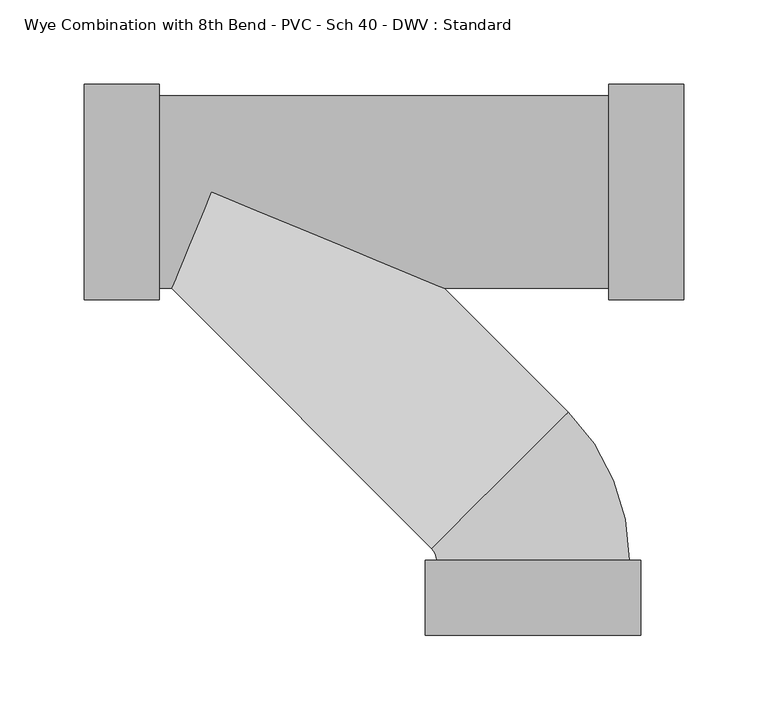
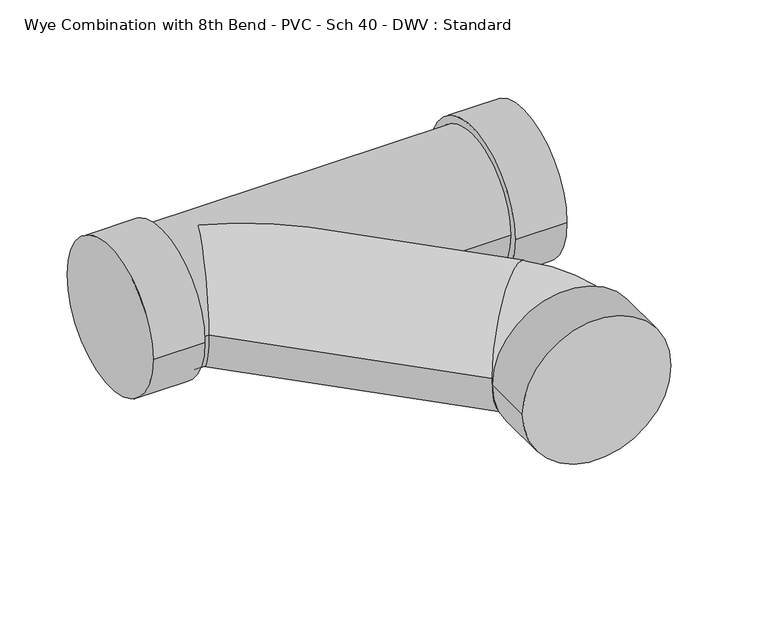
"""IFC4 building model written with IfcOpenShell, lengths in millimetres: pipe fitting geometry, Wye Combination with 8th Bend - PVC - Sch 40 - DWV : Standard."""

import ifcopenshell
import ifcopenshell.guid

model = None  # the IFC model being written
_history = None  # IfcOwnerHistory: only IFC2X3 demands one
_inside = {}  # id of a spatial element -> (the spatial element, [elements in it])
_under = {}  # id of a project, library or spatial element -> (it, [spatial elements below it])
_declared = {}  # id of a project -> (the project, [libraries it declares])
_typed = {}  # id of a type object -> (the type object, [elements of that type])
_made_of = {}  # id of a material, layer set ... -> (it, [elements and type objects made of it])


def new_model(schema):
    """Start an empty IFC model of exactly this schema.

    Asked for "IFC4X3", IfcOpenShell would pick the latest addendum, in which some entities
    have other attributes; the version numbers below select the first issue.
    IFC2X3 requires an IfcOwnerHistory on every rooted entity: one is made here for all.
    """
    global model, _history
    if schema == "IFC4X3":
        model = ifcopenshell.file(schema_version=(4, 3, 0, 0))
    else:
        model = ifcopenshell.file(schema=schema)
    _inside.clear()
    _under.clear()
    _declared.clear()
    _typed.clear()
    _made_of.clear()
    _history = None
    if model.schema == "IFC2X3":
        org = make("IfcOrganization", Name="unknown")
        user = make(
            "IfcPersonAndOrganization",
            ThePerson=make("IfcPerson", FamilyName="unknown"),
            TheOrganization=org,
        )
        app = make(
            "IfcApplication",
            ApplicationDeveloper=org,
            Version="unknown",
            ApplicationFullName="unknown",
            ApplicationIdentifier="unknown",
        )
        _history = make(
            "IfcOwnerHistory",
            OwningUser=user,
            OwningApplication=app,
            ChangeAction="ADDED",
            CreationDate=0,
        )
    return model


def make(cls, **values):
    """One entity of the class cls with the attributes given. An attribute that is None is left unset."""
    return model.create_entity(
        cls, **{name: value for name, value in values.items() if value is not None}
    )


def rooted(cls, **values):
    """An entity with a GlobalId (a new one), such as an element, a storey or a relation."""
    return make(cls, GlobalId=ifcopenshell.guid.new(), OwnerHistory=_history, **values)


def si_unit(unit_type, name, prefix=None):
    """IfcSIUnit, for example si_unit("LENGTHUNIT", "METRE", prefix="MILLI")."""
    return make("IfcSIUnit", UnitType=unit_type, Prefix=prefix, Name=name)


def assignment(units):
    """IfcUnitAssignment: the units of a project."""
    return None if units is None else make("IfcUnitAssignment", Units=units)


def point(xyz):
    """IfcCartesianPoint."""
    return None if xyz is None else make("IfcCartesianPoint", Coordinates=xyz)


def direction(xyz):
    """IfcDirection."""
    return None if xyz is None else make("IfcDirection", DirectionRatios=xyz)


def frame(location, z_axis=None, x_axis=None):
    """IfcAxis2Placement3D, a coordinate frame: its origin and axes. An axis left out is left unset."""
    return make(
        "IfcAxis2Placement3D",
        Location=point(location),
        Axis=direction(z_axis),
        RefDirection=direction(x_axis),
    )


def origin():
    """The frame at (0, 0, 0) with its axes left unset."""
    return frame((0.0, 0.0, 0.0))


def place(relative_to, where):
    """IfcLocalPlacement: puts the frame where relative to a parent placement (None: the world)."""
    return make(
        "IfcLocalPlacement", PlacementRelTo=relative_to, RelativePlacement=where
    )


def context(
    kind, dimensions, precision=None, world=None, true_north=None, identifier=None
):
    """IfcGeometricRepresentationContext, for example the 3D "Model" context."""
    return make(
        "IfcGeometricRepresentationContext",
        ContextIdentifier=identifier,
        ContextType=kind,
        CoordinateSpaceDimension=dimensions,
        Precision=precision,
        WorldCoordinateSystem=world,
        TrueNorth=true_north,
    )


def project(units=None, contexts=None):
    """IfcProject with its units and contexts."""
    return rooted(
        "IfcProject",
        Name="project",
        RepresentationContexts=contexts,
        UnitsInContext=assignment(units),
    )


def spatial(cls, under=None, at=None, **own):
    """A site, building, storey or space (cls), placed at a placement, below another one or the project."""
    s = rooted(cls, ObjectPlacement=at, **own)
    if under is not None:
        _under.setdefault(under.id(), (under, []))[1].append(s)
    return s


def circle_curve(where, radius):
    """IfcCircle in the frame where."""
    return make("IfcCircle", Position=where, Radius=radius)


def ellipse_curve(where, semi_axis1, semi_axis2):
    """IfcEllipse in the frame where."""
    return make(
        "IfcEllipse", Position=where, SemiAxis1=semi_axis1, SemiAxis2=semi_axis2
    )


def trimmed(basis, trim1, trim2, sense, master):
    """IfcTrimmedCurve: the piece of a basis curve between two trims."""
    return make(
        "IfcTrimmedCurve",
        BasisCurve=basis,
        Trim1=trim1,
        Trim2=trim2,
        SenseAgreement=sense,
        MasterRepresentation=master,
    )


def shape(context_of_items, identifier, shape_type, items):
    """IfcShapeRepresentation: the items that make up one representation, for example the "Body"."""
    return make(
        "IfcShapeRepresentation",
        ContextOfItems=context_of_items,
        RepresentationIdentifier=identifier,
        RepresentationType=shape_type,
        Items=items,
    )


def source(mapping_origin, context_of_items, identifier, shape_type, items):
    """IfcRepresentationMap: a shape defined once, which mapped items show again and again."""
    return make(
        "IfcRepresentationMap",
        MappingOrigin=mapping_origin,
        MappedRepresentation=shape(context_of_items, identifier, shape_type, items),
    )


def transform(
    local_origin,
    x_axis=None,
    y_axis=None,
    z_axis=None,
    scale=None,
    scale2=None,
    scale3=None,
    uniform=True,
):
    """IfcCartesianTransformationOperator3D, or its non-uniform kind. x_axis, y_axis, z_axis: its Axis1, 2, 3."""
    if uniform:
        return make(
            "IfcCartesianTransformationOperator3D",
            Axis1=direction(x_axis),
            Axis2=direction(y_axis),
            LocalOrigin=point(local_origin),
            Scale=scale,
            Axis3=direction(z_axis),
        )
    return make(
        "IfcCartesianTransformationOperator3DnonUniform",
        Axis1=direction(x_axis),
        Axis2=direction(y_axis),
        LocalOrigin=point(local_origin),
        Scale=scale,
        Axis3=direction(z_axis),
        Scale2=scale2,
        Scale3=scale3,
    )


def mapped(mapping_source, mapping_target):
    """IfcMappedItem: shows the shape of a source again, moved by a transform."""
    return make(
        "IfcMappedItem", MappingSource=mapping_source, MappingTarget=mapping_target
    )


def made_of(thing, what):
    """Note that an element or type object is made of a material, layer set ...; save() writes the relation."""
    if what is not None:
        _made_of.setdefault(what.id(), (what, []))[1].append(thing)
    return thing


def element(
    cls,
    number,
    at=None,
    inside=None,
    cuts=None,
    type_object=None,
    material=None,
    context=None,
    identifier="Body",
    shape_type=None,
    held_by="IfcProductDefinitionShape",
    body=None,
    shapes=None,
    **own,
):
    """One element of the class cls, such as IfcWall. Its Tag is "e" and its number.

    at: its placement. inside: the storey or other place that contains it. cuts: it is an
    opening in that element (IfcRelVoidsElement). A single representation is given by context,
    identifier, shape_type and body (its items); several are given by shapes. held_by: the class
    of the entity that holds the representations. save() writes the other relations.
    """
    e = rooted(cls, Tag="e%d" % number, ObjectPlacement=at, **own)
    if body is not None:
        shapes = [shape(context, identifier, shape_type, body)]
    if shapes is not None:
        e.Representation = make(held_by, Representations=shapes)
    if inside is not None:
        _inside.setdefault(inside.id(), (inside, []))[1].append(e)
    if cuts is not None:
        rooted(
            "IfcRelVoidsElement", RelatingBuildingElement=cuts, RelatedOpeningElement=e
        )
    if type_object is not None:
        _typed.setdefault(type_object.id(), (type_object, []))[1].append(e)
    return made_of(e, material)


def aggregate(whole, parts):
    """IfcRelAggregates: a whole, such as a stair, and the parts it consists of."""
    return rooted("IfcRelAggregates", RelatingObject=whole, RelatedObjects=parts)


def save(model, path):
    """Write the relations noted so far, then the file.

    IfcRelAggregates (storeys below a building ...), IfcRelContainedInSpatialStructure (elements
    in a storey), IfcRelDefinesByType, IfcRelAssociatesMaterial and IfcRelDeclares: one each for
    every whole, place, type object, material and project.
    """
    for whole, parts in _under.values():
        aggregate(whole, parts)
    for where, things in _inside.values():
        rooted(
            "IfcRelContainedInSpatialStructure",
            RelatedElements=things,
            RelatingStructure=where,
        )
    for kind, things in _typed.values():
        rooted("IfcRelDefinesByType", RelatedObjects=things, RelatingType=kind)
    for what, things in _made_of.values():
        rooted("IfcRelAssociatesMaterial", RelatedObjects=things, RelatingMaterial=what)
    for by, libraries in _declared.values():
        rooted("IfcRelDeclares", RelatingContext=by, RelatedDefinitions=libraries)
    model.write(path)


def plane_surface(at):
    """IfcPlane: the flat surface through the origin of the frame at, square to its z axis."""
    return make("IfcPlane", Position=at)


def cylinder_surface(at, radius):
    """IfcCylindricalSurface: all points at the distance radius from the z axis of the frame at."""
    return make("IfcCylindricalSurface", Position=at, Radius=radius)


def revolved_surface(curve, axis_point, axis_direction):
    """IfcSurfaceOfRevolution: the curve turned about the line through axis_point along axis_direction."""
    return make(
        "IfcSurfaceOfRevolution",
        SweptCurve=make("IfcArbitraryOpenProfileDef", ProfileType="CURVE", Curve=curve),
        AxisPosition=make("IfcAxis1Placement", Location=point(axis_point), Axis=direction(axis_direction)),
    )


def advanced_brep(points, edges, surfaces, faces):
    """IfcAdvancedBrep: a solid bounded by faces that lie on surfaces and meet in shared edges.

    An edge is (start, end): straight between two places in points (the first is 0);
    or (start, end, curve); or (start, end, curve, False) where it runs against its curve.
    A face is (place in surfaces, loops), or (place, loops, False) where it looks against
    its surface's normal. A loop lists edges by number (the first is 1), with a minus sign
    where the edge is run from its end to its start. The first loop is the outer one.
    """
    corners = [point(p) for p in points]
    vertices = [make("IfcVertexPoint", VertexGeometry=c) for c in corners]
    made = []
    for start, end, *more in edges:
        made.append(
            make(
                "IfcEdgeCurve",
                EdgeStart=vertices[start],
                EdgeEnd=vertices[end],
                EdgeGeometry=more[0] if more else make("IfcPolyline", Points=[corners[start], corners[end]]),
                SameSense=more[1] if len(more) > 1 else True,
            )
        )
    hull = []
    for where, loops, *sense in faces:
        bounds = []
        for j, loop in enumerate(loops):
            ring = [make("IfcOrientedEdge", EdgeElement=made[abs(k) - 1], Orientation=k > 0) for k in loop]
            bounds.append(
                make(
                    "IfcFaceOuterBound" if j == 0 else "IfcFaceBound",
                    Bound=make("IfcEdgeLoop", EdgeList=ring),
                    Orientation=True,
                )
            )
        hull.append(make("IfcAdvancedFace", Bounds=bounds, FaceSurface=surfaces[where], SameSense=sense[0] if sense else True))
    return make("IfcAdvancedBrep", Outer=make("IfcClosedShell", CfsFaces=hull))


def wye_combination_with_8th_bend_pvc_sch_40_dwv_standard_19f141cc(model_context):
    return source(origin(), model_context, "Body", "AdvancedBrep", [
        advanced_brep(
        [(-265.9108741, -63.754, 0.0), (-265.9108741, 63.754, 0.0), (-221.4608741, -63.754, 0.0), (-221.4608741, 63.754, 0.0), (-221.4608741, -57.15, 0.0), (-221.4608741, 57.15, 0.0), (44.8327259, 57.15, 0.0), (-214.2358088, -57.15, 0.0), (-190.5635037, 0.0, 57.15), (-52.5911987, -57.15, 0.0), (44.8327259, -57.15, 0.0), (-190.5635037, 0.0, -57.15), (44.8327259, -63.754, 0.0), (44.8327259, 63.754, 0.0), (89.2827259, -63.754, 0.0), (89.2827259, 63.754, 0.0), (-60.0124769, -211.373332, 0.0), (-57.1482741, -218.2880519, 0.0), (57.1517259, -218.2871481, 0.0), (20.8098282, -130.5510269, 0.0), (-63.7522741, -218.2881041, 0.0), (63.7557259, -218.2870959, 0.0), (-63.7519226, -262.7381041, 0.0), (63.7560774, -262.7370959, 0.0)],
        [
            (0, 1, circle_curve(frame((-265.9108741, 0.0, 0.0), z_axis=(-1.0, 0.0, 0.0), x_axis=(0.0, 1.0, 0.0)), 63.754)),
            (1, 0, circle_curve(frame((-265.9108741, 0.0, 0.0), z_axis=(-1.0, 0.0, 0.0), x_axis=(0.0, 1.0, 0.0)), 63.754)),
            (2, 3, circle_curve(frame((-221.4608741, 0.0, 0.0), z_axis=(1.0, 0.0, 0.0), x_axis=(0.0, 1.0, 0.0)), 63.754)),
            (3, 2, circle_curve(frame((-221.4608741, 0.0, 0.0), z_axis=(1.0, 0.0, 0.0), x_axis=(0.0, 1.0, 0.0)), 63.754)),
            (4, 5, circle_curve(frame((-221.4608741, 0.0, 0.0), z_axis=(-1.0, 0.0, 0.0), x_axis=(0.0, 1.0, 0.0)), 57.15)),
            (5, 4, circle_curve(frame((-221.4608741, 0.0, 0.0), z_axis=(-1.0, 0.0, 0.0), x_axis=(0.0, 1.0, 0.0)), 57.15)),
            (0, 2),
            (3, 1),
            (6, 5),
            (4, 7),
            (7, 8, ellipse_curve(frame((-190.5635037, 0.0, 0.0), z_axis=(-0.9238795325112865, 0.3826834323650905, 0.0), x_axis=(-0.38268343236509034, -0.9238795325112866, 0.0)), 61.8587142, 57.15)),
            (8, 9, ellipse_curve(frame((-190.5635037, 0.0, 0.0), z_axis=(0.3826834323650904, 0.9238795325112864, 0.0), x_axis=(-0.9238795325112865, 0.38268343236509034, 0.0)), 149.3401469, 57.15)),
            (9, 10),
            (10, 6, circle_curve(frame((44.8327259, 0.0, 0.0), z_axis=(-1.0, 0.0, 0.0), x_axis=(0.0, 1.0, 0.0)), 57.15)),
            (6, 10, circle_curve(frame((44.8327259, 0.0, 0.0), z_axis=(-1.0, 0.0, 0.0), x_axis=(0.0, 1.0, 0.0)), 57.15)),
            (9, 11, ellipse_curve(frame((-190.5635037, 0.0, 0.0), z_axis=(0.3826834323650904, 0.9238795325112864, 0.0), x_axis=(-0.9238795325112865, 0.38268343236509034, 0.0)), 149.3401469, 57.15)),
            (11, 7, ellipse_curve(frame((-190.5635037, 0.0, 0.0), z_axis=(-0.9238795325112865, 0.3826834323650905, 0.0), x_axis=(-0.38268343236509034, -0.9238795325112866, 0.0)), 61.8587142, 57.15)),
            (12, 13, circle_curve(frame((44.8327259, 0.0, 0.0), z_axis=(-1.0, 0.0, 0.0), x_axis=(0.0, 1.0, 0.0)), 63.754)),
            (13, 12, circle_curve(frame((44.8327259, 0.0, 0.0), z_axis=(-1.0, 0.0, 0.0), x_axis=(0.0, 1.0, 0.0)), 63.754)),
            (14, 15, circle_curve(frame((89.2827259, 0.0, 0.0), z_axis=(1.0, 0.0, 0.0), x_axis=(0.0, 1.0, 0.0)), 63.754)),
            (15, 14, circle_curve(frame((89.2827259, 0.0, 0.0), z_axis=(1.0, 0.0, 0.0), x_axis=(0.0, 1.0, 0.0)), 63.754)),
            (12, 14),
            (15, 13),
            (16, 17, circle_curve(frame((-66.9272741, -218.2881292, 0.0), z_axis=(0.0, 0.0, -1.0), x_axis=(0.9999999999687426, 7.906630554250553e-06, 0.0)), 9.779)),
            (17, 18, circle_curve(frame((0.0017259, -218.2876, 0.0), z_axis=(-7.90663055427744e-06, 0.9999999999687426, 0.0), x_axis=(-0.9999999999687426, -7.90663055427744e-06, 0.0)), 57.15)),
            (18, 19, circle_curve(frame((-66.9272741, -218.2881292, 0.0), z_axis=(0.0, 0.0, 1.0), x_axis=(0.9999999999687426, 7.906630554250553e-06, 0.0)), 124.079)),
            (19, 16, circle_curve(frame((-19.6013243, -170.9621794, 0.0), z_axis=(0.7071067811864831, -0.707106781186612, 0.0), x_axis=(-0.707106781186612, -0.7071067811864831, 0.0)), 57.15)),
            (16, 19, circle_curve(frame((-19.6013243, -170.9621794, 0.0), z_axis=(0.7071067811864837, -0.7071067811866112, 0.0), x_axis=(-0.7071067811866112, -0.7071067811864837, 0.0)), 57.15)),
            (18, 17, circle_curve(frame((0.0017259, -218.2876, 0.0), z_axis=(-7.90663055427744e-06, 0.9999999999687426, 0.0), x_axis=(-0.9999999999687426, -7.90663055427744e-06, 0.0)), 57.15)),
            (19, 9),
            (7, 16),
            (20, 21, circle_curve(frame((0.0017259, -218.2876, 0.0), z_axis=(-7.90663064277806e-06, 0.9999999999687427, 0.0), x_axis=(0.9999999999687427, 7.90663064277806e-06, 0.0)), 63.754)),
            (21, 20, circle_curve(frame((0.0017259, -218.2876, 0.0), z_axis=(-7.90663064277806e-06, 0.9999999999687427, 0.0), x_axis=(0.9999999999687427, 7.90663064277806e-06, 0.0)), 63.754)),
            (22, 23, circle_curve(frame((0.0020774, -262.7376, 0.0), z_axis=(7.90663064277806e-06, -0.9999999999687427, 0.0), x_axis=(0.9999999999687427, 7.90663064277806e-06, 0.0)), 63.754)),
            (23, 22, circle_curve(frame((0.0020774, -262.7376, 0.0), z_axis=(7.90663064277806e-06, -0.9999999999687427, 0.0), x_axis=(0.9999999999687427, 7.90663064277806e-06, 0.0)), 63.754)),
            (20, 22),
            (23, 21),
        ],
        [
            plane_surface(frame((-265.9108741, 0.0, 0.0), z_axis=(-1.0, 0.0, 0.0), x_axis=(0.0, 0.0, 1.0))),
            plane_surface(frame((-221.4608741, 0.0, 0.0), z_axis=(1.0, 0.0, 0.0), x_axis=(0.0, 0.0, 1.0))),
            cylinder_surface(frame((-265.9108741, 0.0, 0.0), z_axis=(-1.0, 0.0, 0.0), x_axis=(0.0, 1.0, 0.0)), 63.754),
            cylinder_surface(frame((-221.4608741, 0.0, 0.0), z_axis=(-1.0, 0.0, 0.0), x_axis=(0.0, 1.0, 0.0)), 57.15),
            plane_surface(frame((44.8327259, 0.0, 0.0), z_axis=(-1.0, 0.0, 0.0), x_axis=(0.0, 0.0, 1.0))),
            plane_surface(frame((89.2827259, 0.0, 0.0), z_axis=(1.0, 0.0, 0.0), x_axis=(0.0, 0.0, 1.0))),
            cylinder_surface(frame((44.8327259, 0.0, 0.0), z_axis=(-1.0, 0.0, 0.0), x_axis=(0.0, 1.0, 0.0)), 63.754),
            revolved_surface(trimmed(ellipse_curve(frame((0.0017259, -218.2876, 0.0), z_axis=(7.90663055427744e-06, -0.9999999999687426, 0.0), x_axis=(-0.9999999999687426, -7.90663055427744e-06, 0.0)), 57.15, 57.15), [point((57.1517259, -218.2871481, 0.0))], [point((-57.1482741, -218.2880519, 0.0))], True, "CARTESIAN"), (-66.9272741, -218.2881292, 0.0), (0.0, 0.0, 1.0)),
            revolved_surface(trimmed(ellipse_curve(frame((0.0017259, -218.2876, 0.0), z_axis=(7.90663055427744e-06, -0.9999999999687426, 0.0), x_axis=(-0.9999999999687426, -7.90663055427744e-06, 0.0)), 57.15, 57.15), [point((-57.1482741, -218.2880519, 0.0))], [point((57.1517259, -218.2871481, 0.0))], True, "CARTESIAN"), (-66.9272741, -218.2881292, 0.0), (0.0, 0.0, 1.0)),
            cylinder_surface(frame((-19.6013243, -170.9621794, 0.0), z_axis=(0.7071067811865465, -0.7071067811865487, 0.0), x_axis=(-0.7071067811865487, -0.7071067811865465, 0.0)), 57.15),
            plane_surface(frame((0.0017259, -218.2876, 0.0), z_axis=(-7.90663064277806e-06, 0.9999999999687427, 0.0), x_axis=(0.0, 0.0, 1.0))),
            plane_surface(frame((0.0020774, -262.7376, 0.0), z_axis=(7.90663064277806e-06, -0.9999999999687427, 0.0), x_axis=(0.0, 0.0, 1.0))),
            cylinder_surface(frame((0.0017259, -218.2876, 0.0), z_axis=(-7.90663064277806e-06, 0.9999999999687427, 0.0), x_axis=(0.9999999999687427, 7.90663064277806e-06, 0.0)), 63.754),
        ],
        [
            (0, [[1, 2]]),
            (1, [[3, 4], [5, 6]]),
            (2, [[-1, 7, -4, 8]]),
            (2, [[-2, -8, -3, -7]]),
            (3, [[9, -5, 10, 11, 12, 13, 14]]),
            (3, [[-9, 15, -13, 16, 17, -10, -6]]),
            (4, [[18, 19], [-14, -15]]),
            (5, [[20, 21]]),
            (6, [[-18, 22, -21, 23]]),
            (6, [[-19, -23, -20, -22]]),
            (7, [[24, 25, 26, 27]]),
            (8, [[-24, 28, -26, 29]]),
            (9, [[-27, 30, -12, -11, 31]]),
            (9, [[-28, -31, -17, -16, -30]]),
            (10, [[32, 33], [-25, -29]]),
            (11, [[34, 35]]),
            (12, [[-32, 36, -35, 37]]),
            (12, [[-33, -37, -34, -36]]),
        ],
    ),
    ])


if __name__ == "__main__":
    model = new_model("IFC4")
    model_context = context("Model", 3, world=origin())
    ifc_project = project(units=[si_unit("LENGTHUNIT", "METRE", prefix="MILLI")], contexts=[model_context])
    site = spatial("IfcSite", under=ifc_project)
    building = spatial("IfcBuilding", under=site)
    placement = place(None, origin())
    wye_combination_with_8th_bend_pvc_sch_40_dwv_standard_shape = wye_combination_with_8th_bend_pvc_sch_40_dwv_standard_19f141cc(model_context)
    element("IfcPipeFitting", 1, ObjectType="Wye Combination with 8th Bend - PVC - Sch 40 - DWV : Standard", at=placement, inside=building, context=model_context, shape_type="MappedRepresentation", body=[
        mapped(wye_combination_with_8th_bend_pvc_sch_40_dwv_standard_shape, transform((0.0, 0.0, 0.0), x_axis=(1.0, 0.0, 0.0), y_axis=(0.0, 1.0, 0.0), z_axis=(0.0, 0.0, 1.0))),
    ])
    save(model, "model.ifc")
